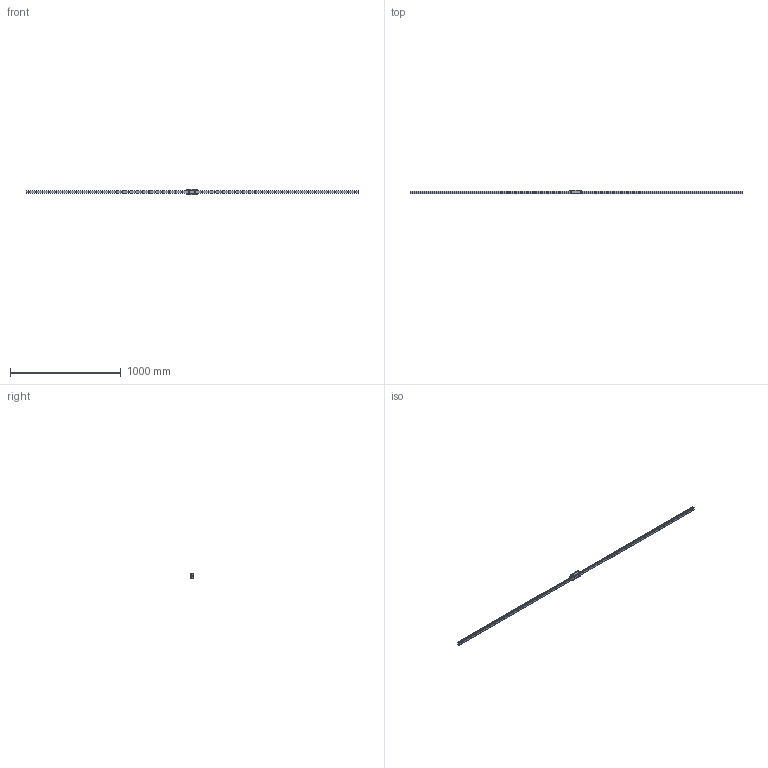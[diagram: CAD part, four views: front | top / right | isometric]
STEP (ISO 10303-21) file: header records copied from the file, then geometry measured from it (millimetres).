
FILE_DESCRIPTION(/* description */ ('STEP AP214'),/* implementation_level */ '2;1');
FILE_NAME(/* name */ 'HDR25LV1SS-3000L_G30_0_B-M6F_1447-75_0_0_01',/* time_stamp */ '2023-06-30T13:03:52+02:00',/* author */ ('License CC BY-ND 4.0'),/* organization */ ('CADENAS'),/* preprocessor_version */ 'ST-DEVELOPER v19.3',/* originating_system */ 'PARTsolutions',/* authorisation */ ' ');
FILE_SCHEMA (('AUTOMOTIVE_DESIGN {1 0 10303 214 3 1 1}'));
Length unit declared in the file: millimetre
Products named in the file (4): HDR25LV1SS-3000L_G30_0_B-M6F_1447-75_0_0_01; hsr_ftht_B-M6F_grease_nipple_joint; HDR25LVSSB-M6F1 Slider; HDR25LV1300030 Rail
Assembly tree (3 placements, depth 2):
  HDR25LV1SS-3000L_G30_0_B-M6F_1447-75_0_0_01
    hsr_ftht_B-M6F_grease_nipple_joint
    HDR25LVSSB-M6F1 Slider
    HDR25LV1300030 Rail
Bounding box: 3000 x 36 x 48 mm (x, y, z)
Volume: 1392297.7 mm3; surface area: 347907.8 mm2
Topology: 3 solids, 3 shells, 372 faces, 898 edges, 587 vertices
Faces by surface type: cylinder 172, plane 170, cone 25, sphere 3, torus 2
Full cylindrical faces by diameter (mm): 4.917 x8, 5.2 x4, 6 x1, 7 x50, 8 x1, 11 x50
Entity records: 10503 total; most frequent: DIRECTION 1846, CARTESIAN_POINT 1803, ORIENTED_EDGE 1492, AXIS2_PLACEMENT_3D 748, EDGE_CURVE 746, FACE_BOUND 673, EDGE_LOOP 665, VERTEX_POINT 581
